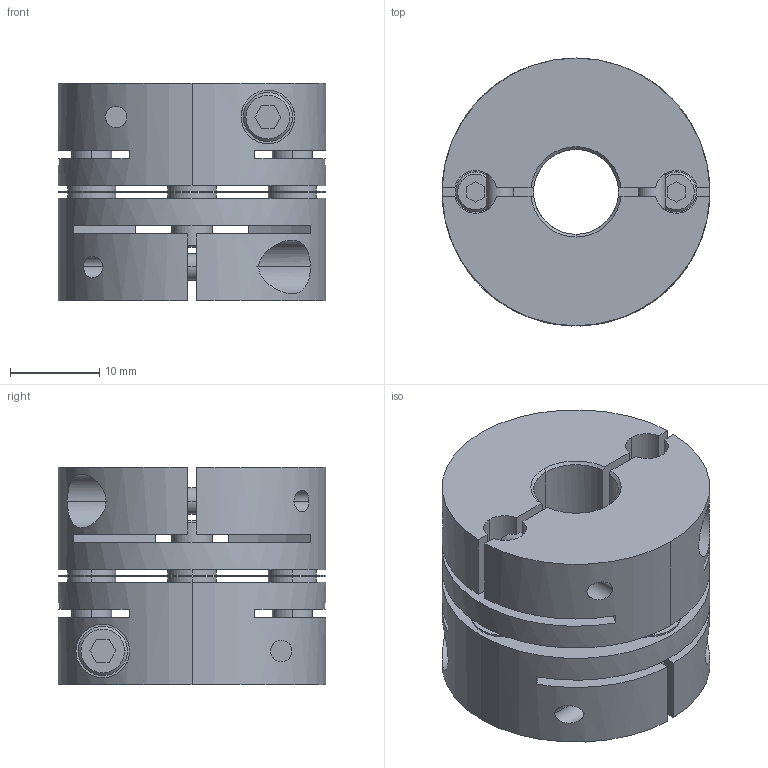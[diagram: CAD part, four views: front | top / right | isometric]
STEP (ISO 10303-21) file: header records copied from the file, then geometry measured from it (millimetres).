
FILE_DESCRIPTION((''),'2;1');
FILE_NAME('LAS-30C-9.525×14.stp','2015-10-14T15:23:07',(''),(''),'AutoCAD STEP 2000i','AutoCAD 2000i',', , ');
FILE_SCHEMA(('CONFIG_CONTROL_DESIGN'));
Length unit declared in the file: millimetre
Products named in the file (6): LAS-30C-6×10; 忣兜1; LA-3002-D10; LA-3002-D06-1; LA-3002-D06; LAS30-ITA
Assembly tree (5 placements, depth 2):
  LAS-30C-6×10
    忣兜1
    LA-3002-D10
    LA-3002-D06-1
    LA-3002-D06
    LAS30-ITA
Bounding box: 30 x 30 x 24.4 mm (x, y, z)
Volume: 12025.6 mm3; surface area: 8936.9 mm2
Topology: 1 solids, 1 shells, 240 faces, 636 edges, 416 vertices
Faces by surface type: plane 112, cylinder 100, cone 28
Entity records: 8333 total; most frequent: CARTESIAN_POINT 2034, DIRECTION 1316, ORIENTED_EDGE 1272, EDGE_CURVE 636, AXIS2_PLACEMENT_3D 482, VERTEX_POINT 416, VECTOR 352, LINE 352
